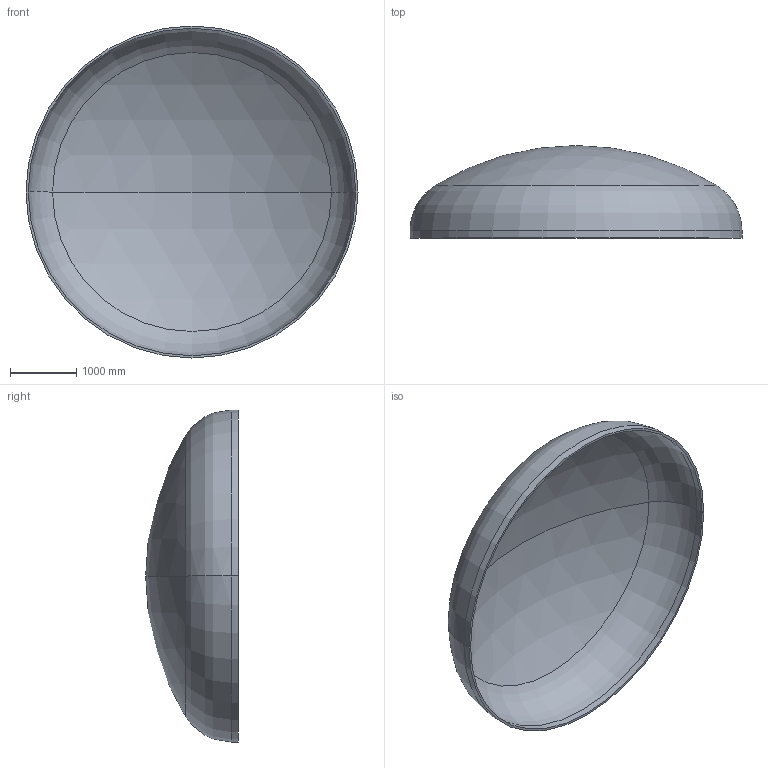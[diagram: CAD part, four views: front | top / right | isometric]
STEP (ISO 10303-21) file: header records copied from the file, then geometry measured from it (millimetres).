
FILE_DESCRIPTION (( 'STEP AP203' ), '1' );
FILE_NAME ('DIN 28013 Korbbogenform_-_Boden DIN 28013 - 5000 x 110 - I - s=34.step', '2016-07-02T00:22:45', ( '' ), ( '' ), 'SwSTEP 2.0', 'SolidWorks 2013', '' );
FILE_SCHEMA (( 'CONFIG_CONTROL_DESIGN' ));
Length unit declared in the file: millimetre
Products named in the file (1): DIN 28013 Korbbogenform_-_Boden DIN 28013 - 5000 x 110 - I - s=34
Bounding box: 5000 x 1395.09 x 5000 mm (x, y, z)
Volume: 974686240 mm3; surface area: 57867322.9 mm2
Topology: 1 solids, 1 shells, 13 faces, 24 edges, 14 vertices
Faces by surface type: torus 4, cylinder 4, sphere 4, plane 1
Entity records: 407 total; most frequent: DIRECTION 72, CARTESIAN_POINT 52, ORIENTED_EDGE 48, AXIS2_PLACEMENT_3D 34, EDGE_CURVE 24, CIRCLE 20, VERTEX_POINT 14, EDGE_LOOP 14
